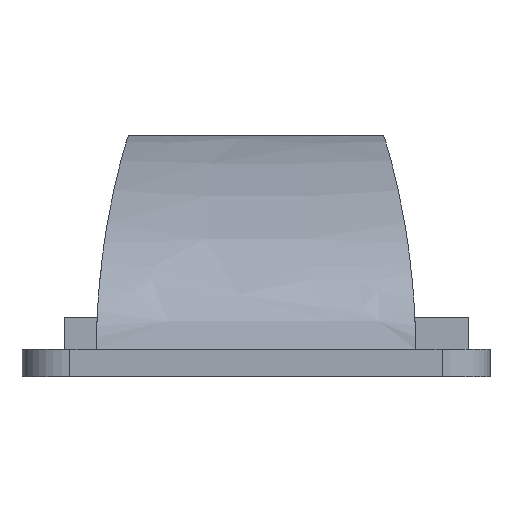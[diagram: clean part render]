
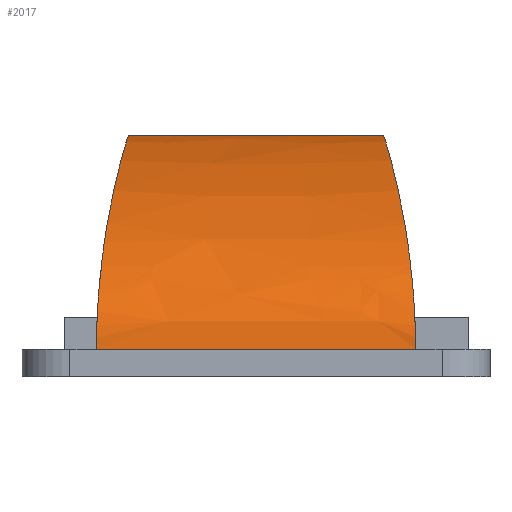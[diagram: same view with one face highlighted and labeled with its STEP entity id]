
A CAD part, front view. The second image highlights one B-rep face of the part: STEP entity #2017.
In plain terms, the highlighted free-form (B-spline) face has degree [3, 3] with [4, 4] control points.
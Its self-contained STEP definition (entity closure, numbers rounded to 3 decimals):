
#47=B_SPLINE_SURFACE_WITH_KNOTS('',3,3,((#32595,#32596,#32597,#32598),(#32599,
#32600,#32601,#32602),(#32603,#32604,#32605,#32606),(#32607,#32608,#32609,
#32610)),.UNSPECIFIED.,.F.,.F.,.F.,(4,4),(4,4),(0.,1.),(0.,1.),
 .UNSPECIFIED.);
#133=FACE_OUTER_BOUND('',#245,.T.);
#245=EDGE_LOOP('',(#1656,#1657,#1658,#1659,#1660,#1661,#1662,#1663,#1664));
#389=B_SPLINE_CURVE_WITH_KNOTS('',3,(#32443,#32444,#32445,#32446),
 .UNSPECIFIED.,.F.,.F.,(4,4),(0.,0.744),.UNSPECIFIED.);
#397=B_SPLINE_CURVE_WITH_KNOTS('',3,(#32573,#32574,#32575,#32576),
 .UNSPECIFIED.,.F.,.F.,(4,4),(0.779,1.),.UNSPECIFIED.);
#399=B_SPLINE_CURVE_WITH_KNOTS('',3,(#32612,#32613,#32614,#32615),
 .UNSPECIFIED.,.F.,.F.,(4,4),(0.,0.744),.UNSPECIFIED.);
#400=B_SPLINE_CURVE_WITH_KNOTS('',3,(#32616,#32617,#32618,#32619,#32620,
#32621,#32622,#32623,#32624,#32625,#32626,#32627,#32628,#32629,#32630,#32631),
 .UNSPECIFIED.,.F.,.F.,(4,3,3,3,3,4),(-0.153,-0.113,
-0.107,-0.08,-0.036,0.),
 .UNSPECIFIED.);
#401=B_SPLINE_CURVE_WITH_KNOTS('',3,(#32635,#32636,#32637,#32638),
 .UNSPECIFIED.,.F.,.F.,(4,4),(0.779,1.),.UNSPECIFIED.);
#402=B_SPLINE_CURVE_WITH_KNOTS('',3,(#32639,#32640,#32641,#32642,#32643,
#32644,#32645,#32646,#32647,#32648,#32649,#32650,#32651,#32652,#32653,#32654),
 .UNSPECIFIED.,.F.,.F.,(4,3,3,3,3,4),(-0.153,-0.109,
-0.075,-0.033,-0.029,0.),
 .UNSPECIFIED.);
#548=LINE('',#32326,#701);
#564=LINE('',#32507,#717);
#579=LINE('',#32633,#732);
#701=VECTOR('',#2421,10.);
#717=VECTOR('',#2453,10.);
#732=VECTOR('',#2482,10.);
#861=VERTEX_POINT('',#3884);
#902=VERTEX_POINT('',#32325);
#912=VERTEX_POINT('',#32440);
#913=VERTEX_POINT('',#32442);
#929=VERTEX_POINT('',#32571);
#930=VERTEX_POINT('',#32572);
#932=VERTEX_POINT('',#32611);
#933=VERTEX_POINT('',#32632);
#934=VERTEX_POINT('',#32634);
#1154=EDGE_CURVE('',#861,#902,#548,.T.);
#1169=EDGE_CURVE('',#912,#913,#389,.T.);
#1182=EDGE_CURVE('',#902,#912,#564,.T.);
#1200=EDGE_CURVE('',#929,#930,#397,.T.);
#1203=EDGE_CURVE('',#861,#932,#399,.T.);
#1204=EDGE_CURVE('',#932,#929,#400,.T.);
#1205=EDGE_CURVE('',#930,#933,#579,.T.);
#1206=EDGE_CURVE('',#934,#933,#401,.T.);
#1207=EDGE_CURVE('',#934,#913,#402,.T.);
#1656=ORIENTED_EDGE('',*,*,#1203,.T.);
#1657=ORIENTED_EDGE('',*,*,#1204,.T.);
#1658=ORIENTED_EDGE('',*,*,#1200,.T.);
#1659=ORIENTED_EDGE('',*,*,#1205,.T.);
#1660=ORIENTED_EDGE('',*,*,#1206,.F.);
#1661=ORIENTED_EDGE('',*,*,#1207,.T.);
#1662=ORIENTED_EDGE('',*,*,#1169,.F.);
#1663=ORIENTED_EDGE('',*,*,#1182,.F.);
#1664=ORIENTED_EDGE('',*,*,#1154,.F.);
#2017=ADVANCED_FACE('',(#133),#47,.F.);
#2421=DIRECTION('',(0.,-1.,0.));
#2453=DIRECTION('',(0.,-1.,0.));
#2482=DIRECTION('',(0.,-1.,0.));
#3884=CARTESIAN_POINT('',(-138.,37.234,-162.8));
#32325=CARTESIAN_POINT('',(-138.,13.249,-162.8));
#32326=CARTESIAN_POINT('',(-138.,37.234,-162.8));
#32440=CARTESIAN_POINT('',(-138.,13.234,-162.8));
#32442=CARTESIAN_POINT('',(-126.042,10.722,-197.744));
#32443=CARTESIAN_POINT('Ctrl Pts',(-138.,13.234,-162.8));
#32444=CARTESIAN_POINT('Ctrl Pts',(-138.,13.234,-171.399));
#32445=CARTESIAN_POINT('Ctrl Pts',(-133.241,11.571,-189.204));
#32446=CARTESIAN_POINT('Ctrl Pts',(-126.042,10.722,-197.744));
#32507=CARTESIAN_POINT('',(-138.,37.234,-162.8));
#32571=CARTESIAN_POINT('',(-125.022,39.859,-198.873));
#32572=CARTESIAN_POINT('',(-117.86,40.234,-202.515));
#32573=CARTESIAN_POINT('Ctrl Pts',(-125.022,39.859,-198.873));
#32574=CARTESIAN_POINT('Ctrl Pts',(-122.82,40.088,-201.14));
#32575=CARTESIAN_POINT('Ctrl Pts',(-120.412,40.234,-202.515));
#32576=CARTESIAN_POINT('Ctrl Pts',(-117.86,40.234,-202.515));
#32595=CARTESIAN_POINT('Ctrl Pts',(-138.,37.234,-162.8));
#32596=CARTESIAN_POINT('Ctrl Pts',(-138.,37.234,-174.351));
#32597=CARTESIAN_POINT('Ctrl Pts',(-129.412,40.234,-202.515));
#32598=CARTESIAN_POINT('Ctrl Pts',(-117.86,40.234,-202.515));
#32599=CARTESIAN_POINT('Ctrl Pts',(-138.,29.234,-162.8));
#32600=CARTESIAN_POINT('Ctrl Pts',(-138.,29.234,-174.351));
#32601=CARTESIAN_POINT('Ctrl Pts',(-129.412,30.234,-202.515));
#32602=CARTESIAN_POINT('Ctrl Pts',(-117.86,30.234,-202.515));
#32603=CARTESIAN_POINT('Ctrl Pts',(-138.,21.234,-162.8));
#32604=CARTESIAN_POINT('Ctrl Pts',(-138.,21.234,-174.351));
#32605=CARTESIAN_POINT('Ctrl Pts',(-129.412,20.234,-202.515));
#32606=CARTESIAN_POINT('Ctrl Pts',(-117.86,20.234,-202.515));
#32607=CARTESIAN_POINT('Ctrl Pts',(-138.,13.234,-162.8));
#32608=CARTESIAN_POINT('Ctrl Pts',(-138.,13.234,-174.351));
#32609=CARTESIAN_POINT('Ctrl Pts',(-129.412,10.234,-202.515));
#32610=CARTESIAN_POINT('Ctrl Pts',(-117.86,10.234,-202.515));
#32611=CARTESIAN_POINT('',(-126.042,39.746,-197.744));
#32612=CARTESIAN_POINT('Ctrl Pts',(-138.,37.234,-162.8));
#32613=CARTESIAN_POINT('Ctrl Pts',(-138.,37.234,-171.399));
#32614=CARTESIAN_POINT('Ctrl Pts',(-133.241,38.897,-189.204));
#32615=CARTESIAN_POINT('Ctrl Pts',(-126.042,39.746,-197.744));
#32616=CARTESIAN_POINT('Ctrl Pts',(-126.042,39.746,-197.744));
#32617=CARTESIAN_POINT('Ctrl Pts',(-125.956,39.737,-197.846));
#32618=CARTESIAN_POINT('Ctrl Pts',(-125.868,39.733,-197.949));
#32619=CARTESIAN_POINT('Ctrl Pts',(-125.78,39.734,-198.05));
#32620=CARTESIAN_POINT('Ctrl Pts',(-125.767,39.734,-198.064));
#32621=CARTESIAN_POINT('Ctrl Pts',(-125.755,39.735,-198.078));
#32622=CARTESIAN_POINT('Ctrl Pts',(-125.742,39.735,-198.093));
#32623=CARTESIAN_POINT('Ctrl Pts',(-125.684,39.737,-198.16));
#32624=CARTESIAN_POINT('Ctrl Pts',(-125.625,39.741,-198.226));
#32625=CARTESIAN_POINT('Ctrl Pts',(-125.565,39.747,-198.292));
#32626=CARTESIAN_POINT('Ctrl Pts',(-125.466,39.757,-198.403));
#32627=CARTESIAN_POINT('Ctrl Pts',(-125.366,39.773,-198.512));
#32628=CARTESIAN_POINT('Ctrl Pts',(-125.266,39.795,-198.619));
#32629=CARTESIAN_POINT('Ctrl Pts',(-125.185,39.813,-198.705));
#32630=CARTESIAN_POINT('Ctrl Pts',(-125.104,39.834,-198.79));
#32631=CARTESIAN_POINT('Ctrl Pts',(-125.022,39.859,-198.873));
#32632=CARTESIAN_POINT('',(-117.86,10.234,-202.515));
#32633=CARTESIAN_POINT('',(-117.86,40.234,-202.515));
#32634=CARTESIAN_POINT('',(-125.022,10.609,-198.873));
#32635=CARTESIAN_POINT('Ctrl Pts',(-125.022,10.609,-198.873));
#32636=CARTESIAN_POINT('Ctrl Pts',(-122.82,10.38,-201.14));
#32637=CARTESIAN_POINT('Ctrl Pts',(-120.412,10.234,-202.515));
#32638=CARTESIAN_POINT('Ctrl Pts',(-117.86,10.234,-202.515));
#32639=CARTESIAN_POINT('Ctrl Pts',(-125.022,10.609,-198.873));
#32640=CARTESIAN_POINT('Ctrl Pts',(-125.124,10.64,-198.769));
#32641=CARTESIAN_POINT('Ctrl Pts',(-125.224,10.665,-198.663));
#32642=CARTESIAN_POINT('Ctrl Pts',(-125.325,10.685,-198.555));
#32643=CARTESIAN_POINT('Ctrl Pts',(-125.399,10.7,-198.475));
#32644=CARTESIAN_POINT('Ctrl Pts',(-125.474,10.711,-198.394));
#32645=CARTESIAN_POINT('Ctrl Pts',(-125.547,10.719,-198.312));
#32646=CARTESIAN_POINT('Ctrl Pts',(-125.641,10.73,-198.208));
#32647=CARTESIAN_POINT('Ctrl Pts',(-125.734,10.735,-198.103));
#32648=CARTESIAN_POINT('Ctrl Pts',(-125.826,10.734,-197.997));
#32649=CARTESIAN_POINT('Ctrl Pts',(-125.835,10.734,-197.987));
#32650=CARTESIAN_POINT('Ctrl Pts',(-125.843,10.734,-197.977));
#32651=CARTESIAN_POINT('Ctrl Pts',(-125.852,10.734,-197.967));
#32652=CARTESIAN_POINT('Ctrl Pts',(-125.916,10.732,-197.893));
#32653=CARTESIAN_POINT('Ctrl Pts',(-125.979,10.728,-197.819));
#32654=CARTESIAN_POINT('Ctrl Pts',(-126.042,10.722,-197.744));
